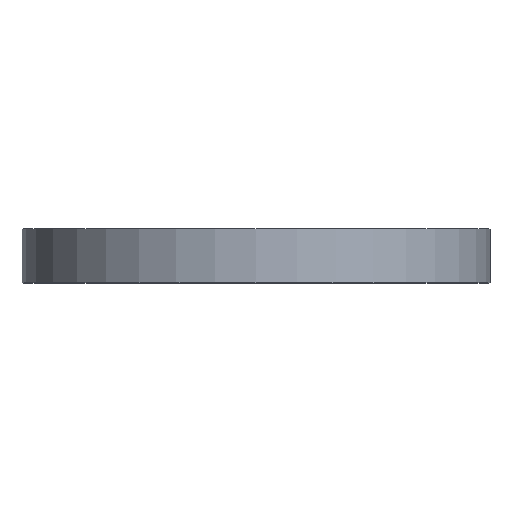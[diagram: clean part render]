
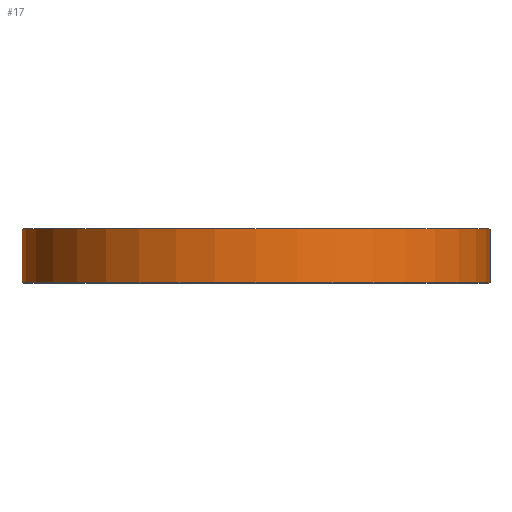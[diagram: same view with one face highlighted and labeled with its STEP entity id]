
A CAD part, top view. The second image highlights one B-rep face of the part: STEP entity #17.
In plain terms, the highlighted cylindrical face has radius 52 mm (diameter 104 mm), a full revolution.
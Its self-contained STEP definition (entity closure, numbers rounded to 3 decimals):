
#17 = ADVANCED_FACE('',(#18),#31,.T.);
#18 = FACE_BOUND('',#19,.T.);
#19 = EDGE_LOOP('',(#20,#54,#77,#104));
#20 = ORIENTED_EDGE('',*,*,#21,.F.);
#21 = EDGE_CURVE('',#22,#22,#24,.T.);
#22 = VERTEX_POINT('',#23);
#23 = CARTESIAN_POINT('',(372.,41.,0.));
#24 = SURFACE_CURVE('',#25,(#30,#42),.PCURVE_S1.);
#25 = CIRCLE('',#26,52.);
#26 = AXIS2_PLACEMENT_3D('',#27,#28,#29);
#27 = CARTESIAN_POINT('',(320.,41.,0.));
#28 = DIRECTION('',(0.,-1.,0.));
#29 = DIRECTION('',(1.,0.,0.));
#30 = PCURVE('',#31,#36);
#31 = CYLINDRICAL_SURFACE('',#32,52.);
#32 = AXIS2_PLACEMENT_3D('',#33,#34,#35);
#33 = CARTESIAN_POINT('',(320.,53.,0.));
#34 = DIRECTION('',(0.,-1.,0.));
#35 = DIRECTION('',(1.,0.,0.));
#36 = DEFINITIONAL_REPRESENTATION('',(#37),#41);
#37 = LINE('',#38,#39);
#38 = CARTESIAN_POINT('',(0.,12.));
#39 = VECTOR('',#40,1.);
#40 = DIRECTION('',(1.,0.));
#41 = ( GEOMETRIC_REPRESENTATION_CONTEXT(2) 
PARAMETRIC_REPRESENTATION_CONTEXT() REPRESENTATION_CONTEXT('2D SPACE',''
  ) );
#42 = PCURVE('',#43,#48);
#43 = PLANE('',#44);
#44 = AXIS2_PLACEMENT_3D('',#45,#46,#47);
#45 = CARTESIAN_POINT('',(320.,41.,0.));
#46 = DIRECTION('',(0.,-1.,0.));
#47 = DIRECTION('',(1.,0.,0.));
#48 = DEFINITIONAL_REPRESENTATION('',(#49),#53);
#49 = CIRCLE('',#50,52.);
#50 = AXIS2_PLACEMENT_2D('',#51,#52);
#51 = CARTESIAN_POINT('',(0.,0.));
#52 = DIRECTION('',(1.,0.));
#53 = ( GEOMETRIC_REPRESENTATION_CONTEXT(2) 
PARAMETRIC_REPRESENTATION_CONTEXT() REPRESENTATION_CONTEXT('2D SPACE',''
  ) );
#54 = ORIENTED_EDGE('',*,*,#55,.F.);
#55 = EDGE_CURVE('',#56,#22,#58,.T.);
#56 = VERTEX_POINT('',#57);
#57 = CARTESIAN_POINT('',(372.,53.,0.));
#58 = SEAM_CURVE('',#59,(#63,#70),.PCURVE_S1.);
#59 = LINE('',#60,#61);
#60 = CARTESIAN_POINT('',(372.,53.,0.));
#61 = VECTOR('',#62,1.);
#62 = DIRECTION('',(0.,-1.,0.));
#63 = PCURVE('',#31,#64);
#64 = DEFINITIONAL_REPRESENTATION('',(#65),#69);
#65 = LINE('',#66,#67);
#66 = CARTESIAN_POINT('',(6.283,-0.));
#67 = VECTOR('',#68,1.);
#68 = DIRECTION('',(0.,1.));
#69 = ( GEOMETRIC_REPRESENTATION_CONTEXT(2) 
PARAMETRIC_REPRESENTATION_CONTEXT() REPRESENTATION_CONTEXT('2D SPACE',''
  ) );
#70 = PCURVE('',#31,#71);
#71 = DEFINITIONAL_REPRESENTATION('',(#72),#76);
#72 = LINE('',#73,#74);
#73 = CARTESIAN_POINT('',(0.,-0.));
#74 = VECTOR('',#75,1.);
#75 = DIRECTION('',(0.,1.));
#76 = ( GEOMETRIC_REPRESENTATION_CONTEXT(2) 
PARAMETRIC_REPRESENTATION_CONTEXT() REPRESENTATION_CONTEXT('2D SPACE',''
  ) );
#77 = ORIENTED_EDGE('',*,*,#78,.T.);
#78 = EDGE_CURVE('',#56,#56,#79,.T.);
#79 = SURFACE_CURVE('',#80,(#85,#92),.PCURVE_S1.);
#80 = CIRCLE('',#81,52.);
#81 = AXIS2_PLACEMENT_3D('',#82,#83,#84);
#82 = CARTESIAN_POINT('',(320.,53.,0.));
#83 = DIRECTION('',(0.,-1.,0.));
#84 = DIRECTION('',(1.,0.,0.));
#85 = PCURVE('',#31,#86);
#86 = DEFINITIONAL_REPRESENTATION('',(#87),#91);
#87 = LINE('',#88,#89);
#88 = CARTESIAN_POINT('',(0.,0.));
#89 = VECTOR('',#90,1.);
#90 = DIRECTION('',(1.,0.));
#91 = ( GEOMETRIC_REPRESENTATION_CONTEXT(2) 
PARAMETRIC_REPRESENTATION_CONTEXT() REPRESENTATION_CONTEXT('2D SPACE',''
  ) );
#92 = PCURVE('',#93,#98);
#93 = PLANE('',#94);
#94 = AXIS2_PLACEMENT_3D('',#95,#96,#97);
#95 = CARTESIAN_POINT('',(320.,53.,0.));
#96 = DIRECTION('',(0.,-1.,0.));
#97 = DIRECTION('',(1.,0.,0.));
#98 = DEFINITIONAL_REPRESENTATION('',(#99),#103);
#99 = CIRCLE('',#100,52.);
#100 = AXIS2_PLACEMENT_2D('',#101,#102);
#101 = CARTESIAN_POINT('',(0.,0.));
#102 = DIRECTION('',(1.,0.));
#103 = ( GEOMETRIC_REPRESENTATION_CONTEXT(2) 
PARAMETRIC_REPRESENTATION_CONTEXT() REPRESENTATION_CONTEXT('2D SPACE',''
  ) );
#104 = ORIENTED_EDGE('',*,*,#55,.T.);
